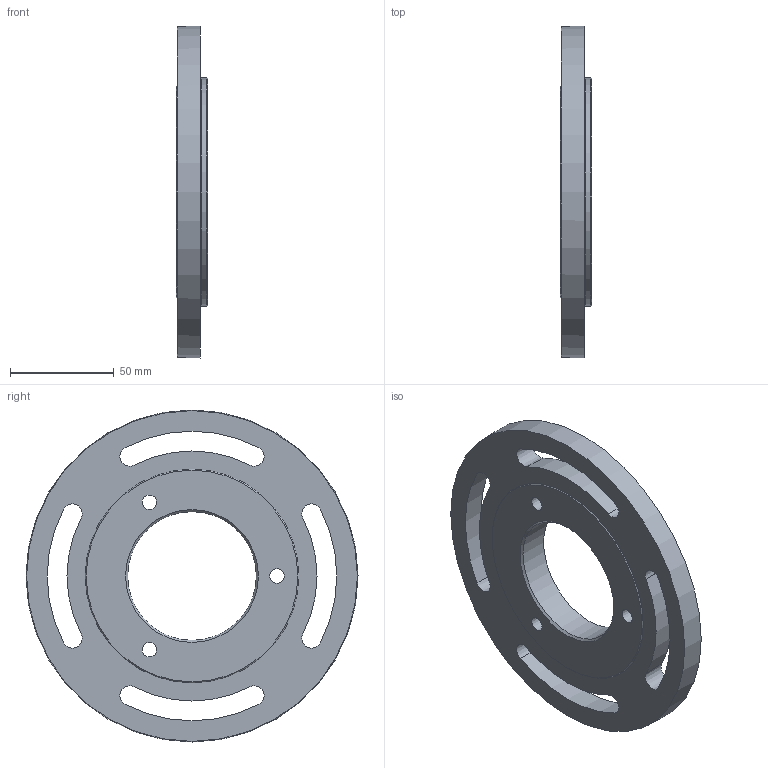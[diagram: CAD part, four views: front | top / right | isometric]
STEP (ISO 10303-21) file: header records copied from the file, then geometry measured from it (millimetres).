
FILE_DESCRIPTION (( 'STEP AP214' ), '1' );
FILE_NAME ('997190 Montageflansch.STEP', '2012-06-20T07:35:34', ( 'Camille Bauer AG' ), ( '' ), 'SwSTEP 2.0', 'SolidWorks 2010', '' );
FILE_SCHEMA (( 'AUTOMOTIVE_DESIGN' ));
Length unit declared in the file: millimetre
Products named in the file (1): 997190 Montageflansch
Bounding box: 15 x 160 x 160 mm (x, y, z)
Volume: 178302.5 mm3; surface area: 46043.6 mm2
Topology: 1 solids, 1 shells, 36 faces, 85 edges, 56 vertices
Faces by surface type: cone 26, plane 7, cylinder 2, torus 1
Full cylindrical faces by diameter (mm): 62 x1, 110 x1
Entity records: 1060 total; most frequent: DIRECTION 200, CARTESIAN_POINT 163, ORIENTED_EDGE 142, AXIS2_PLACEMENT_3D 92, EDGE_CURVE 71, EDGE_LOOP 70, VERTEX_POINT 55, CIRCLE 55
